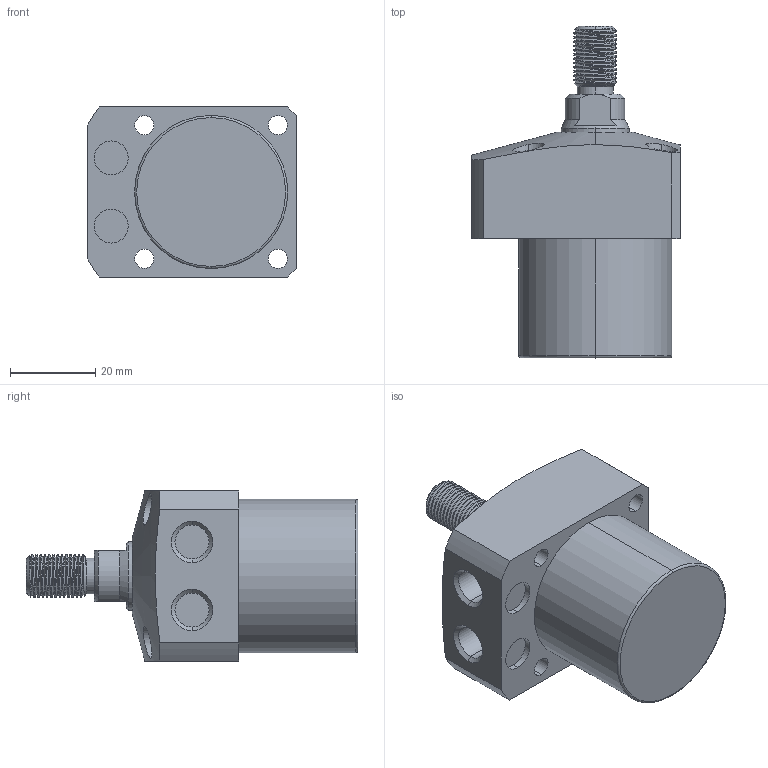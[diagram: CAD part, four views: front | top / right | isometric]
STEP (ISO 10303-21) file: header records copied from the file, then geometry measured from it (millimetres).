
FILE_DESCRIPTION (( 'STEP AP203' ), '1' );
FILE_NAME ('CLL-036CT-020.STEP', '2020-01-08T08:26:42', ( '' ), ( '' ), 'SwSTEP 2.0', 'SolidWorks 2015', '' );
FILE_SCHEMA (( 'CONFIG_CONTROL_DESIGN' ));
Length unit declared in the file: millimetre
Products named in the file (1): CLL-036CT-020
Bounding box: 49 x 78 x 40 mm (x, y, z)
Volume: 71399.9 mm3; surface area: 13831.4 mm2
Topology: 1 solids, 1 shells, 104 faces, 259 edges, 168 vertices
Faces by surface type: cylinder 61, plane 23, cone 16, torus 2, bspline 2
Entity records: 5047 total; most frequent: CARTESIAN_POINT 2628, ORIENTED_EDGE 518, DIRECTION 460, EDGE_CURVE 259, AXIS2_PLACEMENT_3D 185, VERTEX_POINT 168, EDGE_LOOP 123, FACE_OUTER_BOUND 104
